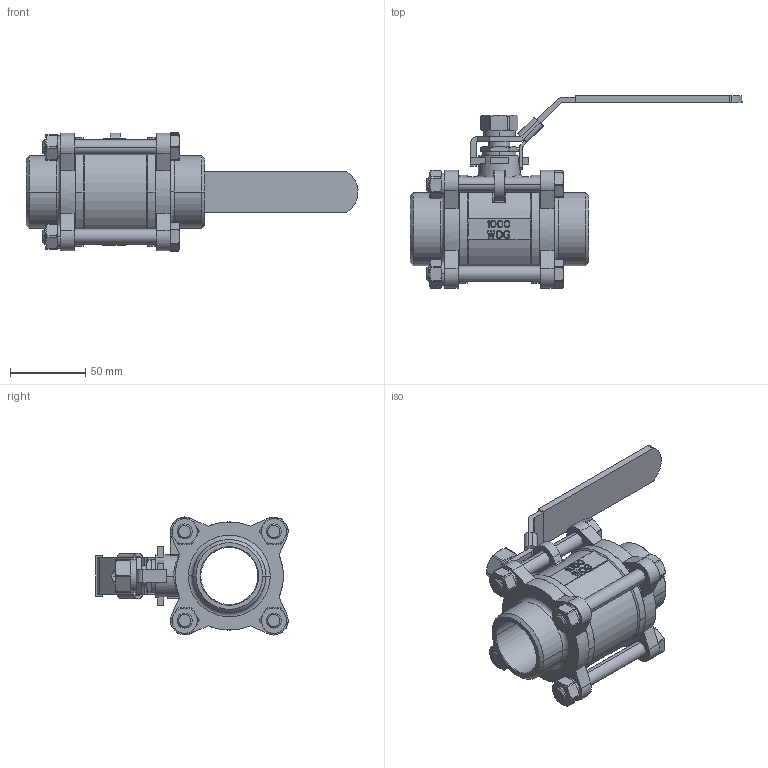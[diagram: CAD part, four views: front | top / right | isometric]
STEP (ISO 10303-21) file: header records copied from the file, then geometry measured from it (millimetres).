
FILE_DESCRIPTION((''),'2;1');
FILE_NAME('32C310_ASM','2020-08-21T',('Administrator'),(''),'CREO PARAMETRIC BY PTC INC, 2016260','CREO PARAMETRIC BY PTC INC, 2016260','');
FILE_SCHEMA(('CONFIG_CONTROL_DESIGN'));
Length unit declared in the file: millimetre
Products named in the file (16): 40T; 14X18X2ZHITUIDIANPIAN; 40FAGAN; 40QIU; 40FAZUO; 40G; M10X85LUOGAN; M10TANDIAN; M10LUOMU; 14X7TIANLIAO; M22X14YATAO; 40SHOUBING; M14TANDIAN; M14LUOMU; 40SUOKOU; 32C310_ASM
Assembly tree (26 placements, depth 2):
  32C310_ASM
    40T
    14X18X2ZHITUIDIANPIAN
    40FAGAN
    40QIU
    40FAZUO  x2
    40G  x2
    M10X85LUOGAN  x4
    M10TANDIAN  x4
    M10LUOMU  x4
    14X7TIANLIAO
    M22X14YATAO
    40SHOUBING
    M14TANDIAN
    M14LUOMU
    40SUOKOU
Bounding box: 221.15 x 128.3 x 78.61 mm (x, y, z)
Volume: 306492.6 mm3; surface area: 137041.6 mm2
Topology: 26 solids, 26 shells, 1035 faces, 2719 edges, 1769 vertices
Faces by surface type: plane 658, cylinder 224, cone 108, extrusion 16, torus 14, sphere 8, bspline 7
Entity records: 27078 total; most frequent: CARTESIAN_POINT 6424, ORIENTED_EDGE 4330, DIRECTION 4018, EDGE_CURVE 2165, VECTOR 1646, LINE 1630, VERTEX_POINT 1421, AXIS2_PLACEMENT_3D 1186
